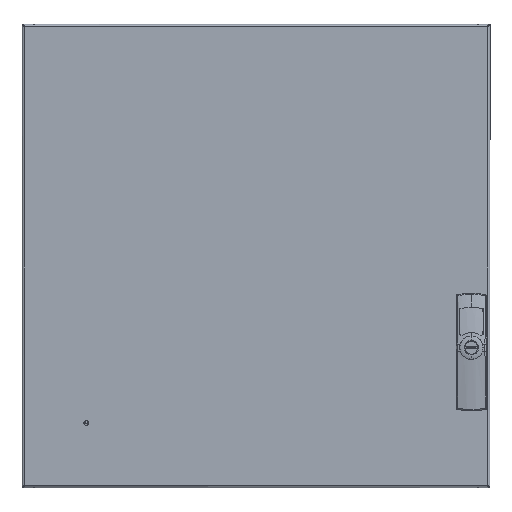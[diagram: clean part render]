
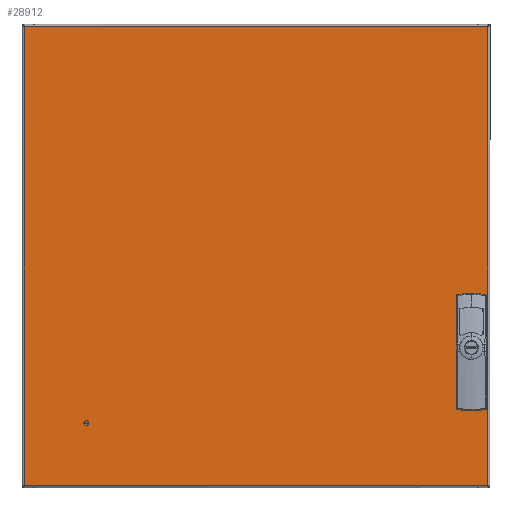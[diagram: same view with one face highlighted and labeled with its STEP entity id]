
A CAD part, top view. The second image highlights one B-rep face of the part: STEP entity #28912.
In plain terms, the highlighted planar face has unit normal (0, 0, 1) as drawn and (0, 0, -1) by its records, which use the part's own axes.
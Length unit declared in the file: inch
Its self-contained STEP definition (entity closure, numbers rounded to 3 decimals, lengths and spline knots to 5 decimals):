
#7895 = CARTESIAN_POINT ( 'NONE',  ( -10.292, -2.1295, 0. ) ) ;
#7898 = CARTESIAN_POINT ( 'NONE',  ( -11.332, -2.1295, 0. ) ) ;
#7945 = CARTESIAN_POINT ( 'NONE',  ( -10.115, -2.1295, 0. ) ) ;
#7946 = CARTESIAN_POINT ( 'NONE',  ( -11.155, -2.1295, 0. ) ) ;
#7959 = CARTESIAN_POINT ( 'NONE',  ( -11.2435, -7.0055, 0. ) ) ;
#7966 = CARTESIAN_POINT ( 'NONE',  ( -11.155, -7.0055, 0. ) ) ;
#7989 = DIRECTION ( 'NONE',  ( 1., 0., 0. ) ) ;
#7990 = DIRECTION ( 'NONE',  ( 0., 0., 1. ) ) ;
#7992 = CARTESIAN_POINT ( 'NONE',  ( -10.115, -7.0055, 0. ) ) ;
#7999 = CARTESIAN_POINT ( 'NONE',  ( -10.292, -7.0055, 0. ) ) ;
#8000 = CIRCLE ( 'NONE', #8002, 0.0885 ) ;
#8002 = AXIS2_PLACEMENT_3D ( 'NONE', #8008, #7990, #7989 ) ;
#8005 = DIRECTION ( 'NONE',  ( 1., 0., 0. ) ) ;
#8006 = DIRECTION ( 'NONE',  ( 0., 0., 1. ) ) ;
#8007 = AXIS2_PLACEMENT_3D ( 'NONE', #7959, #8006, #8005 ) ;
#8008 = CARTESIAN_POINT ( 'NONE',  ( -10.2035, -7.0055, 0. ) ) ;
#8014 = CIRCLE ( 'NONE', #8007, 0.0885 ) ;
#8020 = CARTESIAN_POINT ( 'NONE',  ( -11.2435, -2.1295, 0. ) ) ;
#8021 = CIRCLE ( 'NONE', #8023, 0.0885 ) ;
#8023 = AXIS2_PLACEMENT_3D ( 'NONE', #8020, #8032, #8071 ) ;
#8032 = DIRECTION ( 'NONE',  ( 0., 0., 1. ) ) ;
#8047 = CARTESIAN_POINT ( 'NONE',  ( -11.332, -7.0055, 0. ) ) ;
#8053 = DIRECTION ( 'NONE',  ( 1., 0., 0. ) ) ;
#8054 = AXIS2_PLACEMENT_3D ( 'NONE', #8060, #8064, #8053 ) ;
#8060 = CARTESIAN_POINT ( 'NONE',  ( -10.2035, -2.1295, 0. ) ) ;
#8064 = DIRECTION ( 'NONE',  ( 0., 0., 1. ) ) ;
#8069 = CIRCLE ( 'NONE', #8054, 0.0885 ) ;
#8071 = DIRECTION ( 'NONE',  ( 1., 0., 0. ) ) ;
#8149 = AXIS2_PLACEMENT_3D ( 'NONE', #8192, #8222, #8221 ) ;
#8156 = VECTOR ( 'NONE', #8169, 39.37008 ) ;
#8167 = LINE ( 'NONE', #8170, #8156 ) ;
#8169 = DIRECTION ( 'NONE',  ( -1., 0., 0. ) ) ;
#8170 = CARTESIAN_POINT ( 'NONE',  ( -11.3985, -2.6675, 0. ) ) ;
#8183 = CIRCLE ( 'NONE', #8149, 0.0885 ) ;
#8192 = CARTESIAN_POINT ( 'NONE',  ( -11.2435, -7.0055, 0. ) ) ;
#8210 = CARTESIAN_POINT ( 'NONE',  ( -11.58743, 11.4145, 0. ) ) ;
#8211 = LINE ( 'NONE', #8210, #8273 ) ;
#8213 = DIRECTION ( 'NONE',  ( 0., 1., 0. ) ) ;
#8214 = VECTOR ( 'NONE', #8213, 39.37008 ) ;
#8217 = CARTESIAN_POINT ( 'NONE',  ( 11.5345, -11.4145, 0. ) ) ;
#8219 = CARTESIAN_POINT ( 'NONE',  ( -11.5345, -11.46743, 0. ) ) ;
#8220 = LINE ( 'NONE', #8219, #8214 ) ;
#8221 = DIRECTION ( 'NONE',  ( 1., 0., 0. ) ) ;
#8222 = DIRECTION ( 'NONE',  ( 0., 0., 1. ) ) ;
#8223 = CARTESIAN_POINT ( 'NONE',  ( -11.5345, 11.4145, 0. ) ) ;
#8224 = CARTESIAN_POINT ( 'NONE',  ( -11.5345, -11.4145, 0. ) ) ;
#8238 = FACE_BOUND ( 'NONE', #28842, .T. ) ;
#8239 = FACE_OUTER_BOUND ( 'NONE', #28962, .T. ) ;
#8240 = CARTESIAN_POINT ( 'NONE',  ( -11.5945, 11.4745, 0. ) ) ;
#8241 = FACE_BOUND ( 'NONE', #28899, .T. ) ;
#8242 = FACE_BOUND ( 'NONE', #28959, .T. ) ;
#8247 = AXIS2_PLACEMENT_3D ( 'NONE', #8240, #8249, #8298 ) ;
#8248 = CARTESIAN_POINT ( 'NONE',  ( 11.5345, 11.4145, 0. ) ) ;
#8249 = DIRECTION ( 'NONE',  ( 0., 0., 1. ) ) ;
#8250 = FACE_BOUND ( 'NONE', #28895, .T. ) ;
#8251 = CARTESIAN_POINT ( 'NONE',  ( -11.3985, -6.4675, 0. ) ) ;
#8252 = CARTESIAN_POINT ( 'NONE',  ( -11.0885, -6.4675, 0. ) ) ;
#8253 = FACE_BOUND ( 'NONE', #28897, .T. ) ;
#8254 = DIRECTION ( 'NONE',  ( 1., 0., 0. ) ) ;
#8255 = DIRECTION ( 'NONE',  ( 0., 0., 1. ) ) ;
#8256 = CARTESIAN_POINT ( 'NONE',  ( -11.2435, -2.1295, 0. ) ) ;
#8258 = PLANE ( 'NONE',  #8247 ) ;
#8259 = CARTESIAN_POINT ( 'NONE',  ( -11.0885, -2.6675, 0. ) ) ;
#8260 = AXIS2_PLACEMENT_3D ( 'NONE', #8256, #8255, #8254 ) ;
#8261 = CIRCLE ( 'NONE', #8260, 0.0885 ) ;
#8264 = DIRECTION ( 'NONE',  ( 0., 1., 0. ) ) ;
#8265 = VECTOR ( 'NONE', #8264, 39.37008 ) ;
#8266 = CARTESIAN_POINT ( 'NONE',  ( -11.0885, -2.6675, 0. ) ) ;
#8267 = LINE ( 'NONE', #8266, #8265 ) ;
#8268 = DIRECTION ( 'NONE',  ( 1., 0., 0. ) ) ;
#8269 = VECTOR ( 'NONE', #8268, 39.37008 ) ;
#8270 = CARTESIAN_POINT ( 'NONE',  ( -11.3985, -6.4675, 0. ) ) ;
#8271 = LINE ( 'NONE', #8270, #8269 ) ;
#8272 = DIRECTION ( 'NONE',  ( 1., 0., 0. ) ) ;
#8273 = VECTOR ( 'NONE', #8272, 39.37008 ) ;
#8274 = CARTESIAN_POINT ( 'NONE',  ( -11.3985, -2.6675, 0. ) ) ;
#8286 = DIRECTION ( 'NONE',  ( 1., 0., 0. ) ) ;
#8287 = DIRECTION ( 'NONE',  ( 0., 0., 1. ) ) ;
#8288 = CARTESIAN_POINT ( 'NONE',  ( -10.2035, -2.1295, 0. ) ) ;
#8289 = AXIS2_PLACEMENT_3D ( 'NONE', #8288, #8287, #8286 ) ;
#8293 = DIRECTION ( 'NONE',  ( 0., -1., 0. ) ) ;
#8294 = VECTOR ( 'NONE', #8293, 39.37008 ) ;
#8295 = CARTESIAN_POINT ( 'NONE',  ( -11.3985, -2.6675, 0. ) ) ;
#8298 = DIRECTION ( 'NONE',  ( 1., 0., 0. ) ) ;
#8299 = LINE ( 'NONE', #8295, #8294 ) ;
#8300 = CIRCLE ( 'NONE', #8289, 0.0885 ) ;
#8315 = LINE ( 'NONE', #8352, #8351 ) ;
#8345 = DIRECTION ( 'NONE',  ( 0., -1., 0. ) ) ;
#8346 = VECTOR ( 'NONE', #8345, 39.37008 ) ;
#8347 = CARTESIAN_POINT ( 'NONE',  ( 11.5345, 11.46743, 0. ) ) ;
#8348 = CIRCLE ( 'NONE', #8390, 0.0885 ) ;
#8350 = DIRECTION ( 'NONE',  ( -1., 0., 0. ) ) ;
#8351 = VECTOR ( 'NONE', #8350, 39.37008 ) ;
#8352 = CARTESIAN_POINT ( 'NONE',  ( 11.58743, -11.4145, 0. ) ) ;
#8353 = LINE ( 'NONE', #8347, #8346 ) ;
#8387 = DIRECTION ( 'NONE',  ( 1., 0., 0. ) ) ;
#8388 = DIRECTION ( 'NONE',  ( 0., 0., 1. ) ) ;
#8389 = CARTESIAN_POINT ( 'NONE',  ( -10.2035, -7.0055, 0. ) ) ;
#8390 = AXIS2_PLACEMENT_3D ( 'NONE', #8389, #8388, #8387 ) ;
#28719 = VERTEX_POINT ( 'NONE', #7898 ) ;
#28720 = VERTEX_POINT ( 'NONE', #7895 ) ;
#28730 = VERTEX_POINT ( 'NONE', #7946 ) ;
#28738 = VERTEX_POINT ( 'NONE', #7945 ) ;
#28757 = VERTEX_POINT ( 'NONE', #7966 ) ;
#28760 = EDGE_CURVE ( 'NONE', #28772, #28757, #8014, .T. ) ;
#28766 = EDGE_CURVE ( 'NONE', #28768, #28769, #8000, .T. ) ;
#28768 = VERTEX_POINT ( 'NONE', #7999 ) ;
#28769 = VERTEX_POINT ( 'NONE', #7992 ) ;
#28772 = VERTEX_POINT ( 'NONE', #8047 ) ;
#28787 = EDGE_CURVE ( 'NONE', #28719, #28730, #8021, .T. ) ;
#28794 = EDGE_CURVE ( 'NONE', #28720, #28738, #8069, .T. ) ;
#28842 = EDGE_LOOP ( 'NONE', ( #28849, #28913, #28844, #28916 ) ) ;
#28844 = ORIENTED_EDGE ( 'NONE', *, *, #28892, .T. ) ;
#28848 = ORIENTED_EDGE ( 'NONE', *, *, #28787, .T. ) ;
#28849 = ORIENTED_EDGE ( 'NONE', *, *, #28850, .T. ) ;
#28850 = EDGE_CURVE ( 'NONE', #28910, #28911, #8167, .T. ) ;
#28884 = EDGE_CURVE ( 'NONE', #28757, #28772, #8183, .T. ) ;
#28885 = ORIENTED_EDGE ( 'NONE', *, *, #28760, .T. ) ;
#28886 = VERTEX_POINT ( 'NONE', #8224 ) ;
#28887 = VERTEX_POINT ( 'NONE', #8223 ) ;
#28889 = VERTEX_POINT ( 'NONE', #8217 ) ;
#28890 = EDGE_CURVE ( 'NONE', #28886, #28887, #8220, .T. ) ;
#28891 = EDGE_CURVE ( 'NONE', #28887, #28908, #8211, .T. ) ;
#28892 = EDGE_CURVE ( 'NONE', #28905, #28915, #8271, .T. ) ;
#28893 = EDGE_CURVE ( 'NONE', #28915, #28910, #8267, .T. ) ;
#28894 = ORIENTED_EDGE ( 'NONE', *, *, #28958, .T. ) ;
#28895 = EDGE_LOOP ( 'NONE', ( #28896, #28900 ) ) ;
#28896 = ORIENTED_EDGE ( 'NONE', *, *, #28917, .T. ) ;
#28897 = EDGE_LOOP ( 'NONE', ( #28898, #28848 ) ) ;
#28898 = ORIENTED_EDGE ( 'NONE', *, *, #28901, .T. ) ;
#28899 = EDGE_LOOP ( 'NONE', ( #28894, #28963 ) ) ;
#28900 = ORIENTED_EDGE ( 'NONE', *, *, #28794, .T. ) ;
#28901 = EDGE_CURVE ( 'NONE', #28730, #28719, #8261, .T. ) ;
#28905 = VERTEX_POINT ( 'NONE', #8251 ) ;
#28908 = VERTEX_POINT ( 'NONE', #8248 ) ;
#28910 = VERTEX_POINT ( 'NONE', #8259 ) ;
#28911 = VERTEX_POINT ( 'NONE', #8274 ) ;
#28912 = ADVANCED_FACE ( 'NONE', ( #8238, #8250, #8253, #8241, #8242, #8239 ), #8258, .F. ) ;
#28913 = ORIENTED_EDGE ( 'NONE', *, *, #28914, .T. ) ;
#28914 = EDGE_CURVE ( 'NONE', #28911, #28905, #8299, .T. ) ;
#28915 = VERTEX_POINT ( 'NONE', #8252 ) ;
#28916 = ORIENTED_EDGE ( 'NONE', *, *, #28893, .T. ) ;
#28917 = EDGE_CURVE ( 'NONE', #28738, #28720, #8300, .T. ) ;
#28946 = ORIENTED_EDGE ( 'NONE', *, *, #28891, .T. ) ;
#28947 = EDGE_CURVE ( 'NONE', #28889, #28886, #8315, .T. ) ;
#28948 = EDGE_CURVE ( 'NONE', #28908, #28889, #8353, .T. ) ;
#28952 = ORIENTED_EDGE ( 'NONE', *, *, #28948, .T. ) ;
#28954 = ORIENTED_EDGE ( 'NONE', *, *, #28947, .T. ) ;
#28958 = EDGE_CURVE ( 'NONE', #28769, #28768, #8348, .T. ) ;
#28959 = EDGE_LOOP ( 'NONE', ( #28960, #28885 ) ) ;
#28960 = ORIENTED_EDGE ( 'NONE', *, *, #28884, .T. ) ;
#28962 = EDGE_LOOP ( 'NONE', ( #28965, #28946, #28952, #28954 ) ) ;
#28963 = ORIENTED_EDGE ( 'NONE', *, *, #28766, .T. ) ;
#28965 = ORIENTED_EDGE ( 'NONE', *, *, #28890, .T. ) ;
